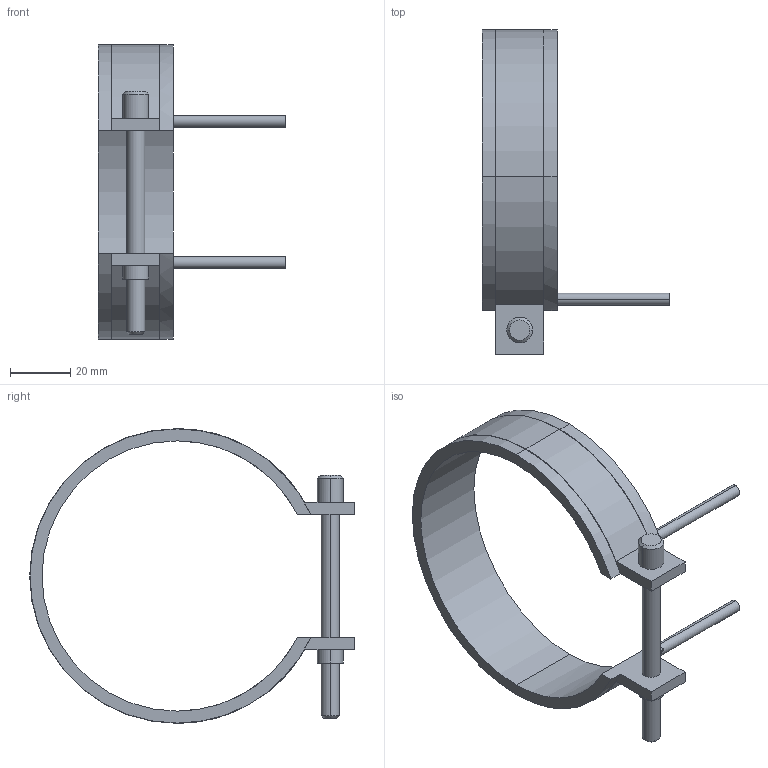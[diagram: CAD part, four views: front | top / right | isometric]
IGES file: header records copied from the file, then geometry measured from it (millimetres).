
Start section: START RECORD GO HERE.
Global section: file name: 14090025.igs; native system: DASSAULT SYSTEMES CATIA V5 R20 - www.3ds.com; preprocessor: CATIA Version 5 Release 20 ; author: Utente; organization: NB04-ASUS; date: 20210406.181313; units: millimetre
Bounding box: 62.5 x 108.1 x 98.2 mm (x, y, z)
Surface area: 18517.3 mm2 (no closed solid volume)
Topology: 0 solids, 0 shells, 45 faces, 232 edges, 232 vertices
Faces by surface type: revolution 28, plane 17
